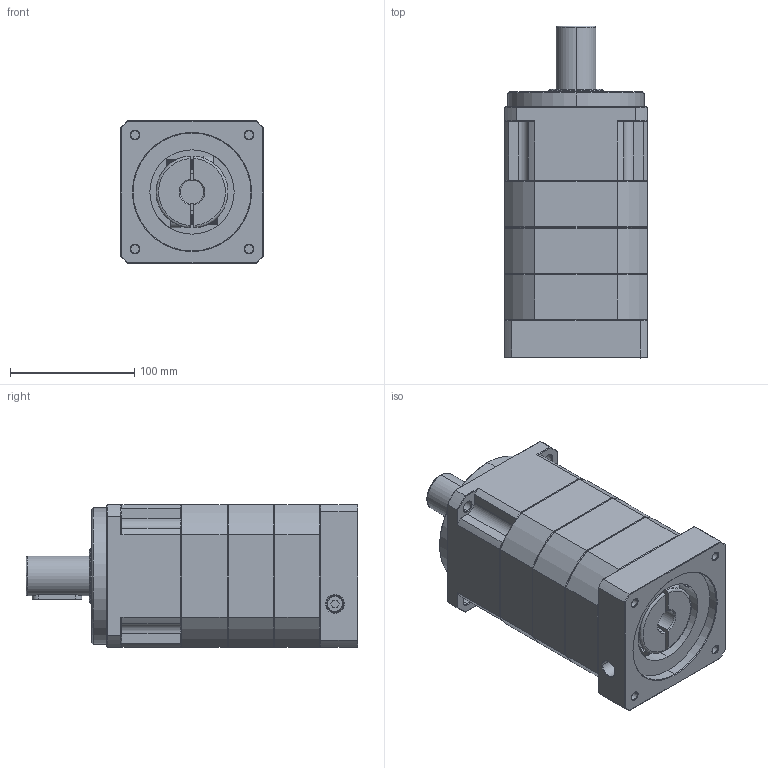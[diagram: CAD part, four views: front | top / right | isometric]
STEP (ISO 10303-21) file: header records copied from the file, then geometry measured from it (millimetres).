
FILE_DESCRIPTION (( 'STEP AP214' ), '1' );
FILE_NAME ('ZPB115-D32-L3-P1-19-95-130-M8.step', '2024-06-11T19:33:15', ( 'Windows 蚚誧' ), ( 'Organization' ), 'SwSTEP 2.0', 'SolidWorks 2016', '' );
FILE_SCHEMA (( 'AUTOMOTIVE_DESIGN' ));
Length unit declared in the file: millimetre
Products named in the file (1): ZPB115-D32-L3-P1-19-95-130-M8
Bounding box: 115 x 267.5 x 115 mm (x, y, z)
Surface area: 159048.9 mm2 (no closed solid volume)
Topology: 0 solids, 29 shells, 1834 faces, 4938 edges, 3163 vertices
Faces by surface type: plane 943, bspline 381, cone 282, cylinder 228
Full cylindrical faces by diameter (mm): 10.2 x1
Entity records: 99171 total; most frequent: CARTESIAN_POINT 49328, ORIENTED_EDGE 9846, DIRECTION 7551, EDGE_CURVE 4932, LINE 3185, VECTOR 3185, VERTEX_POINT 3161, AXIS2_PLACEMENT_3D 2183
